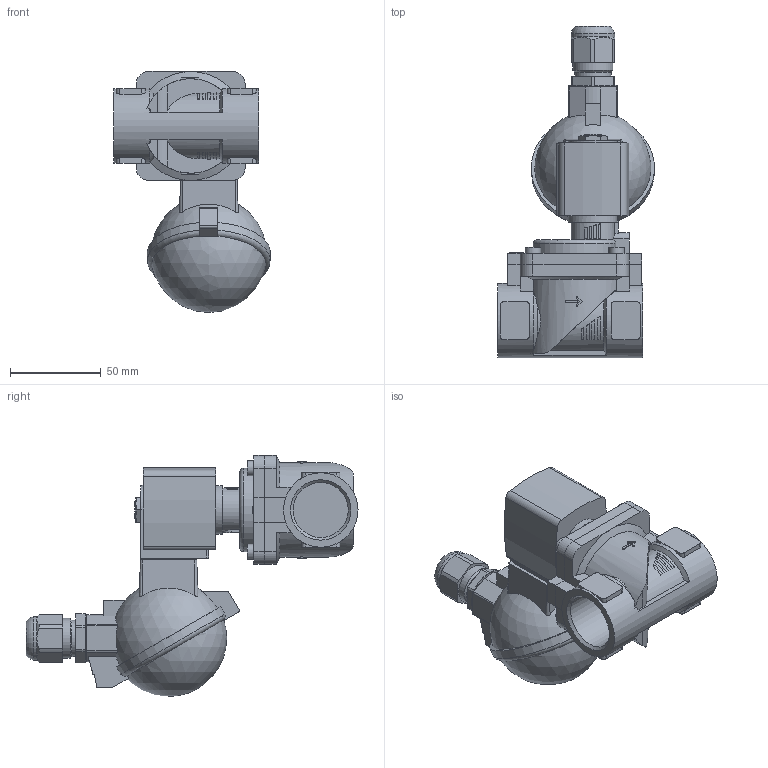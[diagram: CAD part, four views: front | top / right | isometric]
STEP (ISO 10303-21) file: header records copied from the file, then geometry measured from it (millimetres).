
FILE_DESCRIPTION(/* description */ ('STEP AP214'),/* implementation_level */ '2;1');
FILE_NAME(/* name */ '6281-387035-2_2-Way_Solenoid_Valve__Servo-assisted__General_Purpose',/* time_stamp */ '2024-08-21T22:24:32+02:00',/* author */ ('License CC BY-ND 4.0'),/* organization */ ('CADENAS'),/* preprocessor_version */ 'ST-DEVELOPER v19.3',/* originating_system */ 'PARTsolutions',/* authorisation */ ' ');
FILE_SCHEMA (('AUTOMOTIVE_DESIGN {1 0 10303 214 3 1 1}'));
Length unit declared in the file: millimetre
Products named in the file (4): 6281-387035-2/2-Way Solenoid Valve, Servo-assisted, General Purpose; 5281ev200VA2/2-Wege-Magnetventil mit Servomembran-Deckel   ; 6213-20G1VA-Gehaeuse-; AC10ex-6ATEXKLK_MB05Plan-Coil
Assembly tree (3 placements, depth 2):
  6281-387035-2/2-Way Solenoid Valve, Servo-assisted, General Purpose
    5281ev200VA2/2-Wege-Magnetventil mit Servomembran-Deckel   
    6213-20G1VA-Gehaeuse-
    AC10ex-6ATEXKLK_MB05Plan-Coil
Bounding box: 86.43 x 182.8 x 132.7 mm (x, y, z)
Volume: 412562.1 mm3; surface area: 70011.3 mm2
Topology: 3 solids, 3 shells, 391 faces, 1016 edges, 668 vertices
Faces by surface type: plane 241, cylinder 113, cone 29, torus 4, sphere 4
Full cylindrical faces by diameter (mm): 3.242 x1, 8.5 x4, 9.74 x1, 14 x1, 17.294 x1, 20 x1, 22 x1, 23 x1, 24 x1, 27 x2, 30.291 x2, 41 x1
Entity records: 13564 total; most frequent: CARTESIAN_POINT 2394, DIRECTION 2016, ORIENTED_EDGE 1948, EDGE_CURVE 974, AXIS2_PLACEMENT_3D 744, VERTEX_POINT 654, LINE 528, VECTOR 528
